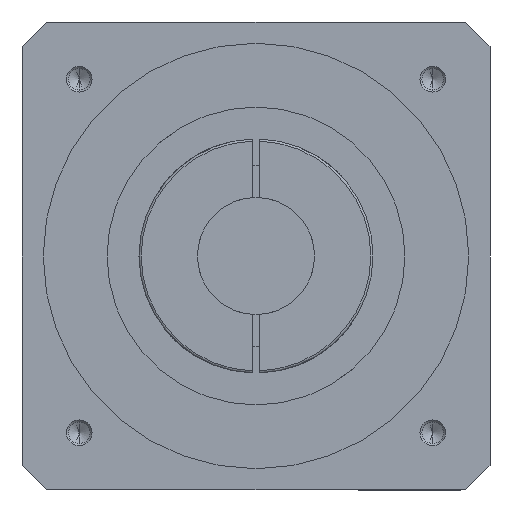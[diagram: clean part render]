
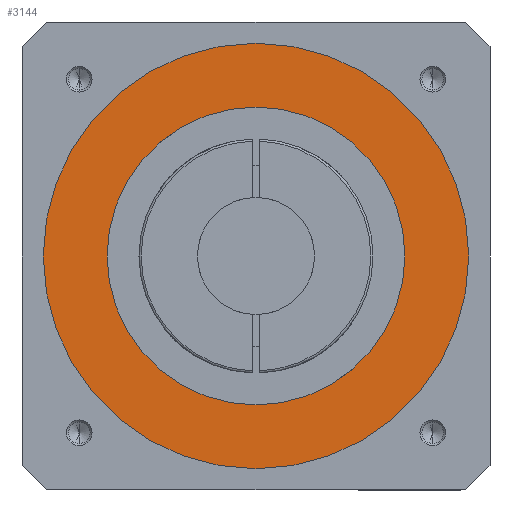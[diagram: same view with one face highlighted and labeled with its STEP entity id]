
A CAD part, front view. The second image highlights one B-rep face of the part: STEP entity #3144.
In plain terms, the highlighted planar face has unit normal (0, -1, 0).
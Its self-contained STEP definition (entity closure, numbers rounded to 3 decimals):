
#73 = CARTESIAN_POINT ( 'NONE',  ( 0., -194.5, 0. ) ) ;
#74 = DIRECTION ( 'NONE',  ( 0., 1., 0. ) ) ;
#75 = DIRECTION ( 'NONE',  ( 0., 0., -1. ) ) ;
#83 = CARTESIAN_POINT ( 'NONE',  ( 0., -194.5, 0. ) ) ;
#84 = DIRECTION ( 'NONE',  ( 0., 1., 0. ) ) ;
#85 = DIRECTION ( 'NONE',  ( 0., 0., -1. ) ) ;
#813 = CARTESIAN_POINT ( 'NONE',  ( 0., -194.5, -70. ) ) ;
#825 = CARTESIAN_POINT ( 'NONE',  ( 0., -194.5, 100. ) ) ;
#828 = CARTESIAN_POINT ( 'NONE',  ( 0., -194.5, -100. ) ) ;
#845 = CARTESIAN_POINT ( 'NONE',  ( 0., -194.5, 70. ) ) ;
#1087 = CIRCLE ( 'NONE', #4540, 100. ) ;
#1185 = CIRCLE ( 'NONE', #4577, 100. ) ;
#1556 = FACE_OUTER_BOUND ( 'NONE', #3956, .T. ) ;
#1561 = FACE_BOUND ( 'NONE', #3959, .T. ) ;
#1692 = CIRCLE ( 'NONE', #2821, 70. ) ;
#1697 = CIRCLE ( 'NONE', #2823, 70. ) ;
#2197 = EDGE_CURVE ( 'NONE', #5008, #5011, #1087, .T. ) ;
#2232 = CARTESIAN_POINT ( 'NONE',  ( 0., -194.5, 0. ) ) ;
#2236 = PLANE ( 'NONE',  #2766 ) ;
#2238 = DIRECTION ( 'NONE',  ( 0., -1., 0. ) ) ;
#2239 = DIRECTION ( 'NONE',  ( 0., 0., -1. ) ) ;
#2512 = EDGE_CURVE ( 'NONE', #5011, #5008, #1185, .T. ) ;
#2618 = DIRECTION ( 'NONE',  ( 0., 0., -1. ) ) ;
#2629 = DIRECTION ( 'NONE',  ( 0., -1., 0. ) ) ;
#2640 = CARTESIAN_POINT ( 'NONE',  ( 0., -194.5, 0. ) ) ;
#2766 = AXIS2_PLACEMENT_3D ( 'NONE', #2232, #2238, #2239 ) ;
#2821 = AXIS2_PLACEMENT_3D ( 'NONE', #73, #74, #75 ) ;
#2823 = AXIS2_PLACEMENT_3D ( 'NONE', #83, #84, #85 ) ;
#2971 = DIRECTION ( 'NONE',  ( 0., 0., -1. ) ) ;
#2972 = DIRECTION ( 'NONE',  ( 0., -1., 0. ) ) ;
#2973 = CARTESIAN_POINT ( 'NONE',  ( 0., -194.5, 0. ) ) ;
#3144 = ADVANCED_FACE ( 'NONE', ( #1556, #1561 ), #2236, .T. ) ;
#3808 = EDGE_CURVE ( 'NONE', #4996, #5028, #1692, .T. ) ;
#3811 = EDGE_CURVE ( 'NONE', #5028, #4996, #1697, .T. ) ;
#3932 = ORIENTED_EDGE ( 'NONE', *, *, #2512, .T. ) ;
#3933 = ORIENTED_EDGE ( 'NONE', *, *, #2197, .T. ) ;
#3934 = ORIENTED_EDGE ( 'NONE', *, *, #3808, .T. ) ;
#3935 = ORIENTED_EDGE ( 'NONE', *, *, #3811, .T. ) ;
#3956 = EDGE_LOOP ( 'NONE', ( #3932, #3933 ) ) ;
#3959 = EDGE_LOOP ( 'NONE', ( #3934, #3935 ) ) ;
#4540 = AXIS2_PLACEMENT_3D ( 'NONE', #2640, #2629, #2618 ) ;
#4577 = AXIS2_PLACEMENT_3D ( 'NONE', #2973, #2972, #2971 ) ;
#4996 = VERTEX_POINT ( 'NONE', #813 ) ;
#5008 = VERTEX_POINT ( 'NONE', #825 ) ;
#5011 = VERTEX_POINT ( 'NONE', #828 ) ;
#5028 = VERTEX_POINT ( 'NONE', #845 ) ;
